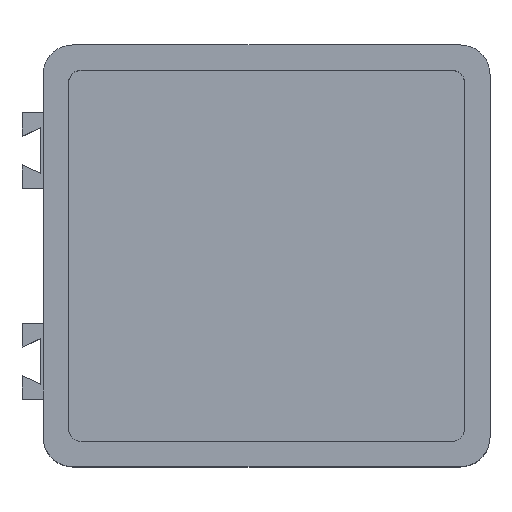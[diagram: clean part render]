
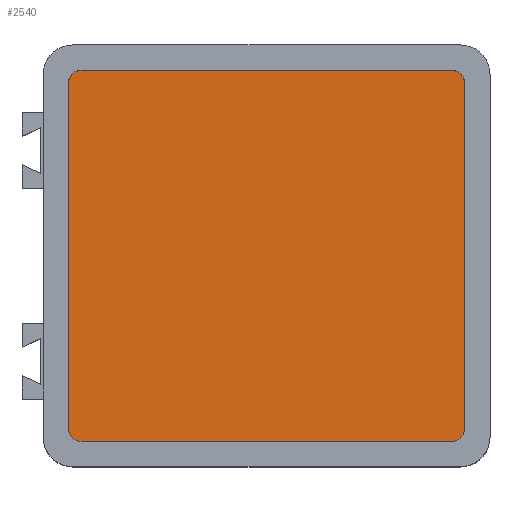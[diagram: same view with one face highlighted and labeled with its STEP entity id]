
A CAD part, top view. The second image highlights one B-rep face of the part: STEP entity #2540.
In plain terms, the highlighted planar face has unit normal (0, 0, 1).
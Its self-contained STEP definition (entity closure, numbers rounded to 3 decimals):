
#571 = CYLINDRICAL_SURFACE('',#572,3.);
#572 = AXIS2_PLACEMENT_3D('',#573,#574,#575);
#573 = CARTESIAN_POINT('',(110.,9.,4.));
#574 = DIRECTION('',(0.,0.,1.));
#575 = DIRECTION('',(-1.,-0.,0.));
#598 = PLANE('',#599);
#599 = AXIS2_PLACEMENT_3D('',#600,#601,#602);
#600 = CARTESIAN_POINT('',(107.,6.,4.));
#601 = DIRECTION('',(1.,0.,-0.));
#602 = DIRECTION('',(0.,0.,1.));
#626 = CYLINDRICAL_SURFACE('',#627,3.);
#627 = AXIS2_PLACEMENT_3D('',#628,#629,#630);
#628 = CARTESIAN_POINT('',(110.,91.,4.));
#629 = DIRECTION('',(0.,0.,1.));
#630 = DIRECTION('',(-1.,-0.,0.));
#653 = PLANE('',#654);
#654 = AXIS2_PLACEMENT_3D('',#655,#656,#657);
#655 = CARTESIAN_POINT('',(107.,94.,4.));
#656 = DIRECTION('',(-0.,1.,0.));
#657 = DIRECTION('',(0.,0.,1.));
#681 = CYLINDRICAL_SURFACE('',#682,3.);
#682 = AXIS2_PLACEMENT_3D('',#683,#684,#685);
#683 = CARTESIAN_POINT('',(198.,91.,4.));
#684 = DIRECTION('',(0.,0.,1.));
#685 = DIRECTION('',(1.,0.,-0.));
#708 = PLANE('',#709);
#709 = AXIS2_PLACEMENT_3D('',#710,#711,#712);
#710 = CARTESIAN_POINT('',(201.,6.,4.));
#711 = DIRECTION('',(1.,0.,-0.));
#712 = DIRECTION('',(0.,0.,1.));
#736 = CYLINDRICAL_SURFACE('',#737,3.);
#737 = AXIS2_PLACEMENT_3D('',#738,#739,#740);
#738 = CARTESIAN_POINT('',(198.,9.,4.));
#739 = DIRECTION('',(0.,0.,1.));
#740 = DIRECTION('',(1.,0.,-0.));
#761 = PLANE('',#762);
#762 = AXIS2_PLACEMENT_3D('',#763,#764,#765);
#763 = CARTESIAN_POINT('',(107.,6.,4.));
#764 = DIRECTION('',(-0.,1.,0.));
#765 = DIRECTION('',(0.,0.,1.));
#1906 = VERTEX_POINT('',#1907);
#1907 = CARTESIAN_POINT('',(107.,9.,4.));
#1928 = EDGE_CURVE('',#1906,#1929,#1931,.T.);
#1929 = VERTEX_POINT('',#1930);
#1930 = CARTESIAN_POINT('',(110.,6.,4.));
#1931 = SURFACE_CURVE('',#1932,(#1937,#1944),.PCURVE_S1.);
#1932 = CIRCLE('',#1933,3.);
#1933 = AXIS2_PLACEMENT_3D('',#1934,#1935,#1936);
#1934 = CARTESIAN_POINT('',(110.,9.,4.));
#1935 = DIRECTION('',(0.,0.,1.));
#1936 = DIRECTION('',(0.,-1.,0.));
#1937 = PCURVE('',#571,#1938);
#1938 = DEFINITIONAL_REPRESENTATION('',(#1939),#1943);
#1939 = LINE('',#1940,#1941);
#1940 = CARTESIAN_POINT('',(-4.712,0.));
#1941 = VECTOR('',#1942,1.);
#1942 = DIRECTION('',(1.,0.));
#1943 = ( GEOMETRIC_REPRESENTATION_CONTEXT(2)
PARAMETRIC_REPRESENTATION_CONTEXT() REPRESENTATION_CONTEXT('2D SPACE',''
  ) );
#1944 = PCURVE('',#1945,#1950);
#1945 = PLANE('',#1946);
#1946 = AXIS2_PLACEMENT_3D('',#1947,#1948,#1949);
#1947 = CARTESIAN_POINT('',(107.,6.,4.));
#1948 = DIRECTION('',(0.,0.,1.));
#1949 = DIRECTION('',(1.,0.,-0.));
#1950 = DEFINITIONAL_REPRESENTATION('',(#1951),#1955);
#1951 = CIRCLE('',#1952,3.);
#1952 = AXIS2_PLACEMENT_2D('',#1953,#1954);
#1953 = CARTESIAN_POINT('',(3.,3.));
#1954 = DIRECTION('',(0.,-1.));
#1955 = ( GEOMETRIC_REPRESENTATION_CONTEXT(2)
PARAMETRIC_REPRESENTATION_CONTEXT() REPRESENTATION_CONTEXT('2D SPACE',''
  ) );
#1982 = EDGE_CURVE('',#1929,#1983,#1985,.T.);
#1983 = VERTEX_POINT('',#1984);
#1984 = CARTESIAN_POINT('',(198.,6.,4.));
#1985 = SURFACE_CURVE('',#1986,(#1990,#1997),.PCURVE_S1.);
#1986 = LINE('',#1987,#1988);
#1987 = CARTESIAN_POINT('',(107.,6.,4.));
#1988 = VECTOR('',#1989,1.);
#1989 = DIRECTION('',(1.,0.,-0.));
#1990 = PCURVE('',#761,#1991);
#1991 = DEFINITIONAL_REPRESENTATION('',(#1992),#1996);
#1992 = LINE('',#1993,#1994);
#1993 = CARTESIAN_POINT('',(0.,0.));
#1994 = VECTOR('',#1995,1.);
#1995 = DIRECTION('',(0.,1.));
#1996 = ( GEOMETRIC_REPRESENTATION_CONTEXT(2)
PARAMETRIC_REPRESENTATION_CONTEXT() REPRESENTATION_CONTEXT('2D SPACE',''
  ) );
#1997 = PCURVE('',#1945,#1998);
#1998 = DEFINITIONAL_REPRESENTATION('',(#1999),#2003);
#1999 = LINE('',#2000,#2001);
#2000 = CARTESIAN_POINT('',(0.,0.));
#2001 = VECTOR('',#2002,1.);
#2002 = DIRECTION('',(1.,0.));
#2003 = ( GEOMETRIC_REPRESENTATION_CONTEXT(2)
PARAMETRIC_REPRESENTATION_CONTEXT() REPRESENTATION_CONTEXT('2D SPACE',''
  ) );
#2032 = VERTEX_POINT('',#2033);
#2033 = CARTESIAN_POINT('',(201.,9.,4.));
#2054 = EDGE_CURVE('',#2032,#1983,#2055,.T.);
#2055 = SURFACE_CURVE('',#2056,(#2061,#2068),.PCURVE_S1.);
#2056 = CIRCLE('',#2057,3.);
#2057 = AXIS2_PLACEMENT_3D('',#2058,#2059,#2060);
#2058 = CARTESIAN_POINT('',(198.,9.,4.));
#2059 = DIRECTION('',(-0.,-0.,-1.));
#2060 = DIRECTION('',(0.,-1.,0.));
#2061 = PCURVE('',#736,#2062);
#2062 = DEFINITIONAL_REPRESENTATION('',(#2063),#2067);
#2063 = LINE('',#2064,#2065);
#2064 = CARTESIAN_POINT('',(4.712,-0.));
#2065 = VECTOR('',#2066,1.);
#2066 = DIRECTION('',(-1.,0.));
#2067 = ( GEOMETRIC_REPRESENTATION_CONTEXT(2)
PARAMETRIC_REPRESENTATION_CONTEXT() REPRESENTATION_CONTEXT('2D SPACE',''
  ) );
#2068 = PCURVE('',#1945,#2069);
#2069 = DEFINITIONAL_REPRESENTATION('',(#2070),#2078);
#2070 = ( BOUNDED_CURVE() B_SPLINE_CURVE(2,(#2071,#2072,#2073,#2074,
#2075,#2076,#2077),.UNSPECIFIED.,.T.,.F.) B_SPLINE_CURVE_WITH_KNOTS((1,2
    ,2,2,2,1),(-2.094,0.,2.094,4.189,
6.283,8.378),.UNSPECIFIED.) CURVE()
GEOMETRIC_REPRESENTATION_ITEM() RATIONAL_B_SPLINE_CURVE((1.,0.5,1.,0.5,
1.,0.5,1.)) REPRESENTATION_ITEM('') );
#2071 = CARTESIAN_POINT('',(91.,0.));
#2072 = CARTESIAN_POINT('',(85.804,0.));
#2073 = CARTESIAN_POINT('',(88.402,4.5));
#2074 = CARTESIAN_POINT('',(91.,9.));
#2075 = CARTESIAN_POINT('',(93.598,4.5));
#2076 = CARTESIAN_POINT('',(96.196,0.));
#2077 = CARTESIAN_POINT('',(91.,0.));
#2078 = ( GEOMETRIC_REPRESENTATION_CONTEXT(2)
PARAMETRIC_REPRESENTATION_CONTEXT() REPRESENTATION_CONTEXT('2D SPACE',''
  ) );
#2087 = EDGE_CURVE('',#2032,#2088,#2090,.T.);
#2088 = VERTEX_POINT('',#2089);
#2089 = CARTESIAN_POINT('',(201.,91.,4.));
#2090 = SURFACE_CURVE('',#2091,(#2095,#2102),.PCURVE_S1.);
#2091 = LINE('',#2092,#2093);
#2092 = CARTESIAN_POINT('',(201.,6.,4.));
#2093 = VECTOR('',#2094,1.);
#2094 = DIRECTION('',(-0.,1.,0.));
#2095 = PCURVE('',#708,#2096);
#2096 = DEFINITIONAL_REPRESENTATION('',(#2097),#2101);
#2097 = LINE('',#2098,#2099);
#2098 = CARTESIAN_POINT('',(0.,0.));
#2099 = VECTOR('',#2100,1.);
#2100 = DIRECTION('',(0.,-1.));
#2101 = ( GEOMETRIC_REPRESENTATION_CONTEXT(2)
PARAMETRIC_REPRESENTATION_CONTEXT() REPRESENTATION_CONTEXT('2D SPACE',''
  ) );
#2102 = PCURVE('',#1945,#2103);
#2103 = DEFINITIONAL_REPRESENTATION('',(#2104),#2108);
#2104 = LINE('',#2105,#2106);
#2105 = CARTESIAN_POINT('',(94.,0.));
#2106 = VECTOR('',#2107,1.);
#2107 = DIRECTION('',(0.,1.));
#2108 = ( GEOMETRIC_REPRESENTATION_CONTEXT(2)
PARAMETRIC_REPRESENTATION_CONTEXT() REPRESENTATION_CONTEXT('2D SPACE',''
  ) );
#2135 = EDGE_CURVE('',#2088,#2136,#2138,.T.);
#2136 = VERTEX_POINT('',#2137);
#2137 = CARTESIAN_POINT('',(198.,94.,4.));
#2138 = SURFACE_CURVE('',#2139,(#2144,#2151),.PCURVE_S1.);
#2139 = CIRCLE('',#2140,3.);
#2140 = AXIS2_PLACEMENT_3D('',#2141,#2142,#2143);
#2141 = CARTESIAN_POINT('',(198.,91.,4.));
#2142 = DIRECTION('',(0.,0.,1.));
#2143 = DIRECTION('',(0.,-1.,0.));
#2144 = PCURVE('',#681,#2145);
#2145 = DEFINITIONAL_REPRESENTATION('',(#2146),#2150);
#2146 = LINE('',#2147,#2148);
#2147 = CARTESIAN_POINT('',(-1.571,0.));
#2148 = VECTOR('',#2149,1.);
#2149 = DIRECTION('',(1.,0.));
#2150 = ( GEOMETRIC_REPRESENTATION_CONTEXT(2)
PARAMETRIC_REPRESENTATION_CONTEXT() REPRESENTATION_CONTEXT('2D SPACE',''
  ) );
#2151 = PCURVE('',#1945,#2152);
#2152 = DEFINITIONAL_REPRESENTATION('',(#2153),#2157);
#2153 = CIRCLE('',#2154,3.);
#2154 = AXIS2_PLACEMENT_2D('',#2155,#2156);
#2155 = CARTESIAN_POINT('',(91.,85.));
#2156 = DIRECTION('',(0.,-1.));
#2157 = ( GEOMETRIC_REPRESENTATION_CONTEXT(2)
PARAMETRIC_REPRESENTATION_CONTEXT() REPRESENTATION_CONTEXT('2D SPACE',''
  ) );
#2184 = EDGE_CURVE('',#2185,#2136,#2187,.T.);
#2185 = VERTEX_POINT('',#2186);
#2186 = CARTESIAN_POINT('',(110.,94.,4.));
#2187 = SURFACE_CURVE('',#2188,(#2192,#2199),.PCURVE_S1.);
#2188 = LINE('',#2189,#2190);
#2189 = CARTESIAN_POINT('',(107.,94.,4.));
#2190 = VECTOR('',#2191,1.);
#2191 = DIRECTION('',(1.,0.,-0.));
#2192 = PCURVE('',#653,#2193);
#2193 = DEFINITIONAL_REPRESENTATION('',(#2194),#2198);
#2194 = LINE('',#2195,#2196);
#2195 = CARTESIAN_POINT('',(0.,0.));
#2196 = VECTOR('',#2197,1.);
#2197 = DIRECTION('',(0.,1.));
#2198 = ( GEOMETRIC_REPRESENTATION_CONTEXT(2)
PARAMETRIC_REPRESENTATION_CONTEXT() REPRESENTATION_CONTEXT('2D SPACE',''
  ) );
#2199 = PCURVE('',#1945,#2200);
#2200 = DEFINITIONAL_REPRESENTATION('',(#2201),#2205);
#2201 = LINE('',#2202,#2203);
#2202 = CARTESIAN_POINT('',(0.,88.));
#2203 = VECTOR('',#2204,1.);
#2204 = DIRECTION('',(1.,0.));
#2205 = ( GEOMETRIC_REPRESENTATION_CONTEXT(2)
PARAMETRIC_REPRESENTATION_CONTEXT() REPRESENTATION_CONTEXT('2D SPACE',''
  ) );
#2234 = VERTEX_POINT('',#2235);
#2235 = CARTESIAN_POINT('',(107.,91.,4.));
#2256 = EDGE_CURVE('',#2234,#2185,#2257,.T.);
#2257 = SURFACE_CURVE('',#2258,(#2263,#2270),.PCURVE_S1.);
#2258 = CIRCLE('',#2259,3.);
#2259 = AXIS2_PLACEMENT_3D('',#2260,#2261,#2262);
#2260 = CARTESIAN_POINT('',(110.,91.,4.));
#2261 = DIRECTION('',(-0.,-0.,-1.));
#2262 = DIRECTION('',(0.,-1.,0.));
#2263 = PCURVE('',#626,#2264);
#2264 = DEFINITIONAL_REPRESENTATION('',(#2265),#2269);
#2265 = LINE('',#2266,#2267);
#2266 = CARTESIAN_POINT('',(1.571,-0.));
#2267 = VECTOR('',#2268,1.);
#2268 = DIRECTION('',(-1.,0.));
#2269 = ( GEOMETRIC_REPRESENTATION_CONTEXT(2)
PARAMETRIC_REPRESENTATION_CONTEXT() REPRESENTATION_CONTEXT('2D SPACE',''
  ) );
#2270 = PCURVE('',#1945,#2271);
#2271 = DEFINITIONAL_REPRESENTATION('',(#2272),#2280);
#2272 = ( BOUNDED_CURVE() B_SPLINE_CURVE(2,(#2273,#2274,#2275,#2276,
#2277,#2278,#2279),.UNSPECIFIED.,.T.,.F.) B_SPLINE_CURVE_WITH_KNOTS((1,2
    ,2,2,2,1),(-2.094,0.,2.094,4.189,
6.283,8.378),.UNSPECIFIED.) CURVE()
GEOMETRIC_REPRESENTATION_ITEM() RATIONAL_B_SPLINE_CURVE((1.,0.5,1.,0.5,
1.,0.5,1.)) REPRESENTATION_ITEM('') );
#2273 = CARTESIAN_POINT('',(3.,82.));
#2274 = CARTESIAN_POINT('',(-2.196,82.));
#2275 = CARTESIAN_POINT('',(0.402,86.5));
#2276 = CARTESIAN_POINT('',(3.,91.));
#2277 = CARTESIAN_POINT('',(5.598,86.5));
#2278 = CARTESIAN_POINT('',(8.196,82.));
#2279 = CARTESIAN_POINT('',(3.,82.));
#2280 = ( GEOMETRIC_REPRESENTATION_CONTEXT(2)
PARAMETRIC_REPRESENTATION_CONTEXT() REPRESENTATION_CONTEXT('2D SPACE',''
  ) );
#2289 = EDGE_CURVE('',#1906,#2234,#2290,.T.);
#2290 = SURFACE_CURVE('',#2291,(#2295,#2302),.PCURVE_S1.);
#2291 = LINE('',#2292,#2293);
#2292 = CARTESIAN_POINT('',(107.,6.,4.));
#2293 = VECTOR('',#2294,1.);
#2294 = DIRECTION('',(-0.,1.,0.));
#2295 = PCURVE('',#598,#2296);
#2296 = DEFINITIONAL_REPRESENTATION('',(#2297),#2301);
#2297 = LINE('',#2298,#2299);
#2298 = CARTESIAN_POINT('',(0.,0.));
#2299 = VECTOR('',#2300,1.);
#2300 = DIRECTION('',(0.,-1.));
#2301 = ( GEOMETRIC_REPRESENTATION_CONTEXT(2)
PARAMETRIC_REPRESENTATION_CONTEXT() REPRESENTATION_CONTEXT('2D SPACE',''
  ) );
#2302 = PCURVE('',#1945,#2303);
#2303 = DEFINITIONAL_REPRESENTATION('',(#2304),#2308);
#2304 = LINE('',#2305,#2306);
#2305 = CARTESIAN_POINT('',(0.,0.));
#2306 = VECTOR('',#2307,1.);
#2307 = DIRECTION('',(0.,1.));
#2308 = ( GEOMETRIC_REPRESENTATION_CONTEXT(2)
PARAMETRIC_REPRESENTATION_CONTEXT() REPRESENTATION_CONTEXT('2D SPACE',''
  ) );
#2540 = ADVANCED_FACE('',(#2541),#1945,.T.);
#2541 = FACE_BOUND('',#2542,.T.);
#2542 = EDGE_LOOP('',(#2543,#2544,#2545,#2546,#2547,#2548,#2549,#2550));
#2543 = ORIENTED_EDGE('',*,*,#2289,.F.);
#2544 = ORIENTED_EDGE('',*,*,#1928,.T.);
#2545 = ORIENTED_EDGE('',*,*,#1982,.T.);
#2546 = ORIENTED_EDGE('',*,*,#2054,.F.);
#2547 = ORIENTED_EDGE('',*,*,#2087,.T.);
#2548 = ORIENTED_EDGE('',*,*,#2135,.T.);
#2549 = ORIENTED_EDGE('',*,*,#2184,.F.);
#2550 = ORIENTED_EDGE('',*,*,#2256,.F.);
